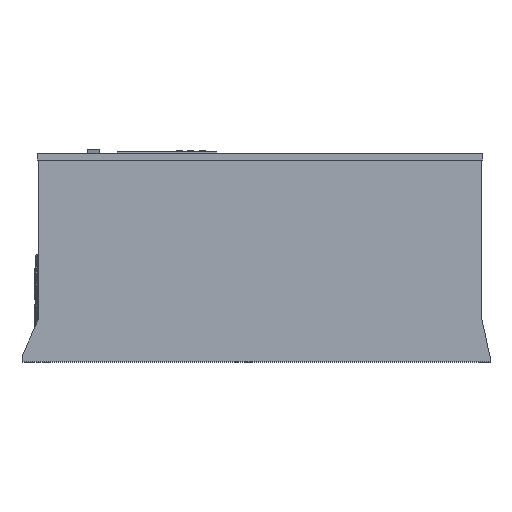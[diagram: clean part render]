
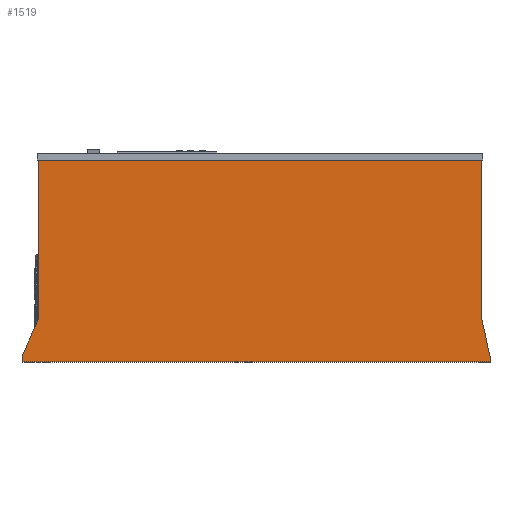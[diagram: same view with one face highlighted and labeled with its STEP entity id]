
A CAD part, top view. The second image highlights one B-rep face of the part: STEP entity #1519.
In plain terms, the highlighted planar face has unit normal (0, 0, 1).
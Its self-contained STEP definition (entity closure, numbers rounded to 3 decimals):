
#71 = VERTEX_POINT('',#72);
#72 = CARTESIAN_POINT('',(575.,0.,337.));
#79 = PLANE('',#80);
#80 = AXIS2_PLACEMENT_3D('',#81,#82,#83);
#81 = CARTESIAN_POINT('',(575.,0.,0.));
#82 = DIRECTION('',(0.,-1.,0.));
#83 = DIRECTION('',(-1.,0.,0.));
#91 = PLANE('',#92);
#92 = AXIS2_PLACEMENT_3D('',#93,#94,#95);
#93 = CARTESIAN_POINT('',(575.,0.,0.));
#94 = DIRECTION('',(-1.,0.,0.));
#95 = DIRECTION('',(0.,1.,0.));
#103 = EDGE_CURVE('',#71,#104,#106,.T.);
#104 = VERTEX_POINT('',#105);
#105 = CARTESIAN_POINT('',(0.,0.,337.));
#106 = SURFACE_CURVE('',#107,(#111,#118),.PCURVE_S1.);
#107 = LINE('',#108,#109);
#108 = CARTESIAN_POINT('',(575.,0.,337.));
#109 = VECTOR('',#110,1.);
#110 = DIRECTION('',(-1.,0.,0.));
#111 = PCURVE('',#79,#112);
#112 = DEFINITIONAL_REPRESENTATION('',(#113),#117);
#113 = LINE('',#114,#115);
#114 = CARTESIAN_POINT('',(0.,-337.));
#115 = VECTOR('',#116,1.);
#116 = DIRECTION('',(1.,0.));
#117 = ( GEOMETRIC_REPRESENTATION_CONTEXT(2) 
PARAMETRIC_REPRESENTATION_CONTEXT() REPRESENTATION_CONTEXT('2D SPACE',''
  ) );
#118 = PCURVE('',#119,#124);
#119 = PLANE('',#120);
#120 = AXIS2_PLACEMENT_3D('',#121,#122,#123);
#121 = CARTESIAN_POINT('',(289.993,121.394,337.));
#122 = DIRECTION('',(-0.,-0.,-1.));
#123 = DIRECTION('',(-1.,0.,0.));
#124 = DEFINITIONAL_REPRESENTATION('',(#125),#129);
#125 = LINE('',#126,#127);
#126 = CARTESIAN_POINT('',(-285.007,-121.394));
#127 = VECTOR('',#128,1.);
#128 = DIRECTION('',(1.,0.));
#129 = ( GEOMETRIC_REPRESENTATION_CONTEXT(2) 
PARAMETRIC_REPRESENTATION_CONTEXT() REPRESENTATION_CONTEXT('2D SPACE',''
  ) );
#147 = PLANE('',#148);
#148 = AXIS2_PLACEMENT_3D('',#149,#150,#151);
#149 = CARTESIAN_POINT('',(0.,0.,0.));
#150 = DIRECTION('',(-1.,0.,0.));
#151 = DIRECTION('',(0.,1.,0.));
#1389 = EDGE_CURVE('',#71,#1390,#1392,.T.);
#1390 = VERTEX_POINT('',#1391);
#1391 = CARTESIAN_POINT('',(575.,7.,337.));
#1392 = SURFACE_CURVE('',#1393,(#1397,#1404),.PCURVE_S1.);
#1393 = LINE('',#1394,#1395);
#1394 = CARTESIAN_POINT('',(575.,0.,337.));
#1395 = VECTOR('',#1396,1.);
#1396 = DIRECTION('',(0.,1.,0.));
#1397 = PCURVE('',#91,#1398);
#1398 = DEFINITIONAL_REPRESENTATION('',(#1399),#1403);
#1399 = LINE('',#1400,#1401);
#1400 = CARTESIAN_POINT('',(0.,-337.));
#1401 = VECTOR('',#1402,1.);
#1402 = DIRECTION('',(1.,0.));
#1403 = ( GEOMETRIC_REPRESENTATION_CONTEXT(2) 
PARAMETRIC_REPRESENTATION_CONTEXT() REPRESENTATION_CONTEXT('2D SPACE',''
  ) );
#1404 = PCURVE('',#119,#1405);
#1405 = DEFINITIONAL_REPRESENTATION('',(#1406),#1410);
#1406 = LINE('',#1407,#1408);
#1407 = CARTESIAN_POINT('',(-285.007,-121.394));
#1408 = VECTOR('',#1409,1.);
#1409 = DIRECTION('',(0.,1.));
#1410 = ( GEOMETRIC_REPRESENTATION_CONTEXT(2) 
PARAMETRIC_REPRESENTATION_CONTEXT() REPRESENTATION_CONTEXT('2D SPACE',''
  ) );
#1428 = PLANE('',#1429);
#1429 = AXIS2_PLACEMENT_3D('',#1430,#1431,#1432);
#1430 = CARTESIAN_POINT('',(565.,52.,0.));
#1431 = DIRECTION('',(0.976,0.217,0.));
#1432 = DIRECTION('',(0.217,-0.976,0.));
#1519 = ADVANCED_FACE('',(#1520),#119,.F.);
#1520 = FACE_BOUND('',#1521,.F.);
#1521 = EDGE_LOOP('',(#1522,#1523,#1546,#1574,#1602,#1630,#1658,#1679));
#1522 = ORIENTED_EDGE('',*,*,#103,.T.);
#1523 = ORIENTED_EDGE('',*,*,#1524,.T.);
#1524 = EDGE_CURVE('',#104,#1525,#1527,.T.);
#1525 = VERTEX_POINT('',#1526);
#1526 = CARTESIAN_POINT('',(0.,7.,337.));
#1527 = SURFACE_CURVE('',#1528,(#1532,#1539),.PCURVE_S1.);
#1528 = LINE('',#1529,#1530);
#1529 = CARTESIAN_POINT('',(0.,0.,337.));
#1530 = VECTOR('',#1531,1.);
#1531 = DIRECTION('',(0.,1.,0.));
#1532 = PCURVE('',#119,#1533);
#1533 = DEFINITIONAL_REPRESENTATION('',(#1534),#1538);
#1534 = LINE('',#1535,#1536);
#1535 = CARTESIAN_POINT('',(289.993,-121.394));
#1536 = VECTOR('',#1537,1.);
#1537 = DIRECTION('',(0.,1.));
#1538 = ( GEOMETRIC_REPRESENTATION_CONTEXT(2) 
PARAMETRIC_REPRESENTATION_CONTEXT() REPRESENTATION_CONTEXT('2D SPACE',''
  ) );
#1539 = PCURVE('',#147,#1540);
#1540 = DEFINITIONAL_REPRESENTATION('',(#1541),#1545);
#1541 = LINE('',#1542,#1543);
#1542 = CARTESIAN_POINT('',(0.,-337.));
#1543 = VECTOR('',#1544,1.);
#1544 = DIRECTION('',(1.,0.));
#1545 = ( GEOMETRIC_REPRESENTATION_CONTEXT(2) 
PARAMETRIC_REPRESENTATION_CONTEXT() REPRESENTATION_CONTEXT('2D SPACE',''
  ) );
#1546 = ORIENTED_EDGE('',*,*,#1547,.T.);
#1547 = EDGE_CURVE('',#1525,#1548,#1550,.T.);
#1548 = VERTEX_POINT('',#1549);
#1549 = CARTESIAN_POINT('',(20.,52.,337.));
#1550 = SURFACE_CURVE('',#1551,(#1555,#1562),.PCURVE_S1.);
#1551 = LINE('',#1552,#1553);
#1552 = CARTESIAN_POINT('',(0.,7.,337.));
#1553 = VECTOR('',#1554,1.);
#1554 = DIRECTION('',(0.406,0.914,0.));
#1555 = PCURVE('',#119,#1556);
#1556 = DEFINITIONAL_REPRESENTATION('',(#1557),#1561);
#1557 = LINE('',#1558,#1559);
#1558 = CARTESIAN_POINT('',(289.993,-114.394));
#1559 = VECTOR('',#1560,1.);
#1560 = DIRECTION('',(-0.406,0.914));
#1561 = ( GEOMETRIC_REPRESENTATION_CONTEXT(2) 
PARAMETRIC_REPRESENTATION_CONTEXT() REPRESENTATION_CONTEXT('2D SPACE',''
  ) );
#1562 = PCURVE('',#1563,#1568);
#1563 = PLANE('',#1564);
#1564 = AXIS2_PLACEMENT_3D('',#1565,#1566,#1567);
#1565 = CARTESIAN_POINT('',(0.,7.,0.));
#1566 = DIRECTION('',(-0.914,0.406,0.));
#1567 = DIRECTION('',(0.406,0.914,0.));
#1568 = DEFINITIONAL_REPRESENTATION('',(#1569),#1573);
#1569 = LINE('',#1570,#1571);
#1570 = CARTESIAN_POINT('',(0.,-337.));
#1571 = VECTOR('',#1572,1.);
#1572 = DIRECTION('',(1.,0.));
#1573 = ( GEOMETRIC_REPRESENTATION_CONTEXT(2) 
PARAMETRIC_REPRESENTATION_CONTEXT() REPRESENTATION_CONTEXT('2D SPACE',''
  ) );
#1574 = ORIENTED_EDGE('',*,*,#1575,.T.);
#1575 = EDGE_CURVE('',#1548,#1576,#1578,.T.);
#1576 = VERTEX_POINT('',#1577);
#1577 = CARTESIAN_POINT('',(20.,248.,337.));
#1578 = SURFACE_CURVE('',#1579,(#1583,#1590),.PCURVE_S1.);
#1579 = LINE('',#1580,#1581);
#1580 = CARTESIAN_POINT('',(20.,52.,337.));
#1581 = VECTOR('',#1582,1.);
#1582 = DIRECTION('',(0.,1.,0.));
#1583 = PCURVE('',#119,#1584);
#1584 = DEFINITIONAL_REPRESENTATION('',(#1585),#1589);
#1585 = LINE('',#1586,#1587);
#1586 = CARTESIAN_POINT('',(269.993,-69.394));
#1587 = VECTOR('',#1588,1.);
#1588 = DIRECTION('',(0.,1.));
#1589 = ( GEOMETRIC_REPRESENTATION_CONTEXT(2) 
PARAMETRIC_REPRESENTATION_CONTEXT() REPRESENTATION_CONTEXT('2D SPACE',''
  ) );
#1590 = PCURVE('',#1591,#1596);
#1591 = PLANE('',#1592);
#1592 = AXIS2_PLACEMENT_3D('',#1593,#1594,#1595);
#1593 = CARTESIAN_POINT('',(20.,52.,0.));
#1594 = DIRECTION('',(-1.,0.,0.));
#1595 = DIRECTION('',(0.,1.,0.));
#1596 = DEFINITIONAL_REPRESENTATION('',(#1597),#1601);
#1597 = LINE('',#1598,#1599);
#1598 = CARTESIAN_POINT('',(0.,-337.));
#1599 = VECTOR('',#1600,1.);
#1600 = DIRECTION('',(1.,0.));
#1601 = ( GEOMETRIC_REPRESENTATION_CONTEXT(2) 
PARAMETRIC_REPRESENTATION_CONTEXT() REPRESENTATION_CONTEXT('2D SPACE',''
  ) );
#1602 = ORIENTED_EDGE('',*,*,#1603,.T.);
#1603 = EDGE_CURVE('',#1576,#1604,#1606,.T.);
#1604 = VERTEX_POINT('',#1605);
#1605 = CARTESIAN_POINT('',(565.,248.,337.));
#1606 = SURFACE_CURVE('',#1607,(#1611,#1618),.PCURVE_S1.);
#1607 = LINE('',#1608,#1609);
#1608 = CARTESIAN_POINT('',(20.,248.,337.));
#1609 = VECTOR('',#1610,1.);
#1610 = DIRECTION('',(1.,0.,0.));
#1611 = PCURVE('',#119,#1612);
#1612 = DEFINITIONAL_REPRESENTATION('',(#1613),#1617);
#1613 = LINE('',#1614,#1615);
#1614 = CARTESIAN_POINT('',(269.993,126.606));
#1615 = VECTOR('',#1616,1.);
#1616 = DIRECTION('',(-1.,0.));
#1617 = ( GEOMETRIC_REPRESENTATION_CONTEXT(2) 
PARAMETRIC_REPRESENTATION_CONTEXT() REPRESENTATION_CONTEXT('2D SPACE',''
  ) );
#1618 = PCURVE('',#1619,#1624);
#1619 = PLANE('',#1620);
#1620 = AXIS2_PLACEMENT_3D('',#1621,#1622,#1623);
#1621 = CARTESIAN_POINT('',(20.,248.,0.));
#1622 = DIRECTION('',(0.,1.,0.));
#1623 = DIRECTION('',(1.,0.,0.));
#1624 = DEFINITIONAL_REPRESENTATION('',(#1625),#1629);
#1625 = LINE('',#1626,#1627);
#1626 = CARTESIAN_POINT('',(0.,-337.));
#1627 = VECTOR('',#1628,1.);
#1628 = DIRECTION('',(1.,0.));
#1629 = ( GEOMETRIC_REPRESENTATION_CONTEXT(2) 
PARAMETRIC_REPRESENTATION_CONTEXT() REPRESENTATION_CONTEXT('2D SPACE',''
  ) );
#1630 = ORIENTED_EDGE('',*,*,#1631,.T.);
#1631 = EDGE_CURVE('',#1604,#1632,#1634,.T.);
#1632 = VERTEX_POINT('',#1633);
#1633 = CARTESIAN_POINT('',(565.,52.,337.));
#1634 = SURFACE_CURVE('',#1635,(#1639,#1646),.PCURVE_S1.);
#1635 = LINE('',#1636,#1637);
#1636 = CARTESIAN_POINT('',(565.,248.,337.));
#1637 = VECTOR('',#1638,1.);
#1638 = DIRECTION('',(0.,-1.,0.));
#1639 = PCURVE('',#119,#1640);
#1640 = DEFINITIONAL_REPRESENTATION('',(#1641),#1645);
#1641 = LINE('',#1642,#1643);
#1642 = CARTESIAN_POINT('',(-275.007,126.606));
#1643 = VECTOR('',#1644,1.);
#1644 = DIRECTION('',(0.,-1.));
#1645 = ( GEOMETRIC_REPRESENTATION_CONTEXT(2) 
PARAMETRIC_REPRESENTATION_CONTEXT() REPRESENTATION_CONTEXT('2D SPACE',''
  ) );
#1646 = PCURVE('',#1647,#1652);
#1647 = PLANE('',#1648);
#1648 = AXIS2_PLACEMENT_3D('',#1649,#1650,#1651);
#1649 = CARTESIAN_POINT('',(565.,248.,0.));
#1650 = DIRECTION('',(1.,0.,0.));
#1651 = DIRECTION('',(0.,-1.,0.));
#1652 = DEFINITIONAL_REPRESENTATION('',(#1653),#1657);
#1653 = LINE('',#1654,#1655);
#1654 = CARTESIAN_POINT('',(0.,-337.));
#1655 = VECTOR('',#1656,1.);
#1656 = DIRECTION('',(1.,0.));
#1657 = ( GEOMETRIC_REPRESENTATION_CONTEXT(2) 
PARAMETRIC_REPRESENTATION_CONTEXT() REPRESENTATION_CONTEXT('2D SPACE',''
  ) );
#1658 = ORIENTED_EDGE('',*,*,#1659,.T.);
#1659 = EDGE_CURVE('',#1632,#1390,#1660,.T.);
#1660 = SURFACE_CURVE('',#1661,(#1665,#1672),.PCURVE_S1.);
#1661 = LINE('',#1662,#1663);
#1662 = CARTESIAN_POINT('',(565.,52.,337.));
#1663 = VECTOR('',#1664,1.);
#1664 = DIRECTION('',(0.217,-0.976,0.));
#1665 = PCURVE('',#119,#1666);
#1666 = DEFINITIONAL_REPRESENTATION('',(#1667),#1671);
#1667 = LINE('',#1668,#1669);
#1668 = CARTESIAN_POINT('',(-275.007,-69.394));
#1669 = VECTOR('',#1670,1.);
#1670 = DIRECTION('',(-0.217,-0.976));
#1671 = ( GEOMETRIC_REPRESENTATION_CONTEXT(2) 
PARAMETRIC_REPRESENTATION_CONTEXT() REPRESENTATION_CONTEXT('2D SPACE',''
  ) );
#1672 = PCURVE('',#1428,#1673);
#1673 = DEFINITIONAL_REPRESENTATION('',(#1674),#1678);
#1674 = LINE('',#1675,#1676);
#1675 = CARTESIAN_POINT('',(0.,-337.));
#1676 = VECTOR('',#1677,1.);
#1677 = DIRECTION('',(1.,0.));
#1678 = ( GEOMETRIC_REPRESENTATION_CONTEXT(2) 
PARAMETRIC_REPRESENTATION_CONTEXT() REPRESENTATION_CONTEXT('2D SPACE',''
  ) );
#1679 = ORIENTED_EDGE('',*,*,#1389,.F.);
